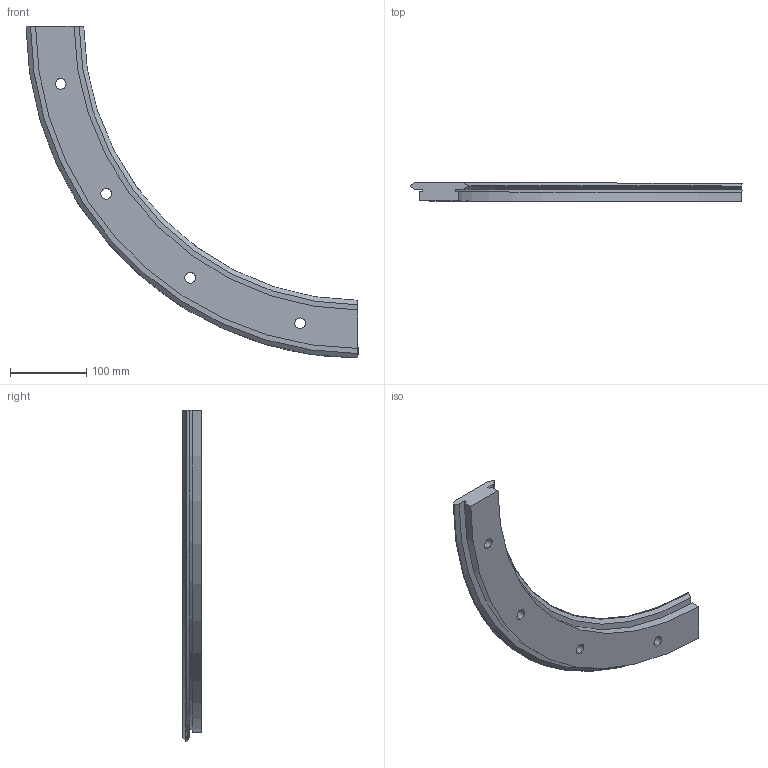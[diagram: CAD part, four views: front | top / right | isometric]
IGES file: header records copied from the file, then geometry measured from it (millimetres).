
Start section: 3D InterOp IGES (v. 2020 1.0.1), Spatial Corp. Copyright (c) 1999-2017.
Global section: file name: r76_799_r90.igs; native system: Spatial Corp.; preprocessor: 3D InterOp ACIS/IGES; author: TraceParts; organization: TraceParts S.A.; date: 20220624.073215; units: millimetre
Bounding box: 435.3 x 24 x 435.3 mm (x, y, z)
Surface area: 133239.8 mm2 (no closed solid volume)
Topology: 0 solids, 0 shells, 40 faces, 204 edges, 204 vertices
Faces by surface type: revolution 28, extrusion 12
